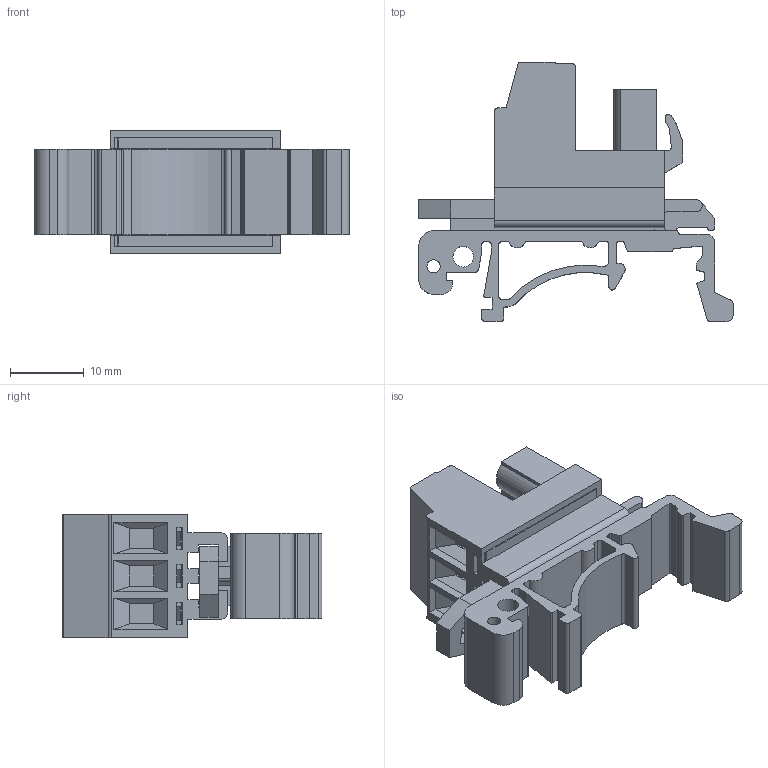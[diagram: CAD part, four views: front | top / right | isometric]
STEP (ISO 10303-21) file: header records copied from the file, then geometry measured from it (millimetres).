
FILE_DESCRIPTION((''),'2;1');
FILE_NAME('3PIN_SW0001','2019-06-03T',('zhenbing.lai'),(''),'CREO PARAMETRIC BY PTC INC, 2016260','CREO PARAMETRIC BY PTC INC, 2016260','');
FILE_SCHEMA(('CONFIG_CONTROL_DESIGN'));
Length unit declared in the file: millimetre
Products named in the file (1): 3PIN_SW0001
Bounding box: 42.5 x 35.1 x 16.76 mm (x, y, z)
Volume: 7623.4 mm3; surface area: 7281.5 mm2
Topology: 1 solids, 1 shells, 549 faces, 1677 edges, 1116 vertices
Faces by surface type: plane 334, cylinder 188, cone 15, torus 12
Entity records: 19317 total; most frequent: CARTESIAN_POINT 3931, ORIENTED_EDGE 3354, DIRECTION 3128, EDGE_CURVE 1677, VERTEX_POINT 1116, VECTOR 1104, LINE 1104, AXIS2_PLACEMENT_3D 1012
